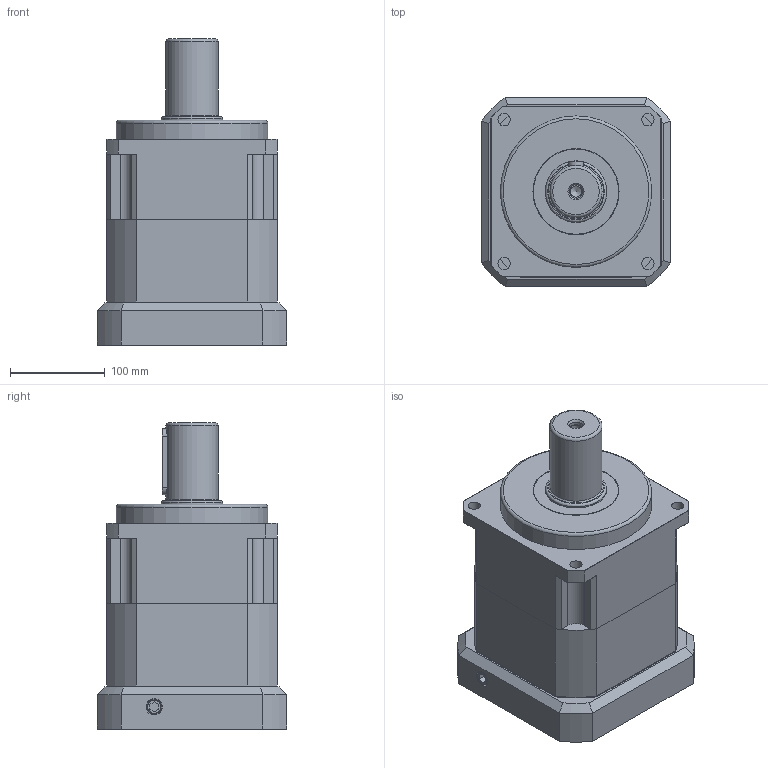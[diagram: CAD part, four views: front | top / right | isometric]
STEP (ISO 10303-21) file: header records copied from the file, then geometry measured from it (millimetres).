
FILE_DESCRIPTION((''),'2;1');
FILE_NAME('C:\Work\감속기 카다로그 도면\ATG Reducer(홈페이지)\KSB\KSB-180-1.stp','2014-06-26T14:48:00',('young'),(''),'Autodesk Inventor 2012','Autodesk Inventor 2012','');
FILE_SCHEMA(('AUTOMOTIVE_DESIGN { 1 0 10303 214 1 1 1 1 }'));
Length unit declared in the file: millimetre
Products named in the file (1): KSB-180-1
Bounding box: 200 x 200 x 323.5 mm (x, y, z)
Volume: 5442318.4 mm3; surface area: 563702.5 mm2
Topology: 16 solids, 18 shells, 574 faces, 1393 edges, 897 vertices
Faces by surface type: plane 277, cylinder 198, cone 70, bspline 15, torus 14
Full cylindrical faces by diameter (mm): 4.5 x4, 8 x4, 8.5 x4, 8.6 x1, 10 x5, 10.2 x8, 11 x1, 12 x1, 13 x8, 14 x1, 14.5 x2, 16 x5, 16.709 x2, 19 x4, 51 x1, 54.9 x1, 55 x1, 58.2 x1, 59.8 x1, 60 x1, 64.8 x1, 65 x1, 80 x2, 90 x3, 155 x1, 160 x1, 165 x2
Entity records: 18744 total; most frequent: CARTESIAN_POINT 5455, DIRECTION 2764, ORIENTED_EDGE 2484, EDGE_CURVE 1242, AXIS2_PLACEMENT_3D 1062, VERTEX_POINT 866, EDGE_LOOP 772, VECTOR 640
